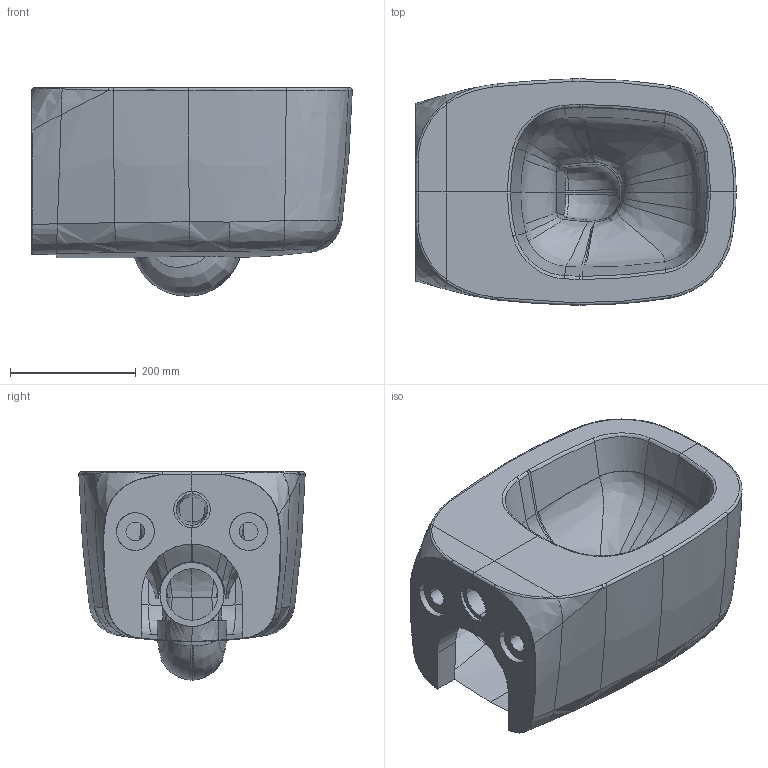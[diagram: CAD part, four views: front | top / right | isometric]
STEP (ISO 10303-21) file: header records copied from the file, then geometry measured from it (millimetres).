
FILE_DESCRIPTION(('CATIA V5 STEP Exchange'),'2;1');
FILE_NAME('C:\Users\167035\Downloads\7813.stp','2025-04-18T14:47:46+00:00',('none'),('none'),'CATIA Version 5 Release 19 SP 5 (IN-10)','CATIA V5 STEP AP214','none');
FILE_SCHEMA(('AUTOMOTIVE_DESIGN { 1 0 10303 214 1 1 1 1 }'));
Products named in the file (1): Vaso sospeso Galassia
Bounding box: 509.9 x 359.8 x 331.4 mm (x, y, z)
Surface area: 1082928.7 mm2 (no closed solid volume)
Topology: 0 solids, 20 shells, 241 faces, 719 edges, 487 vertices
Faces by surface type: bspline 180, cylinder 26, plane 25, torus 6, extrusion 2, revolution 2
Entity records: 45551 total; most frequent: CARTESIAN_POINT 40957, ORIENTED_EDGE 1112, EDGE_CURVE 713, B_SPLINE_CURVE_WITH_KNOTS 591, VERTEX_POINT 487, EDGE_LOOP 246, ADVANCED_FACE 241, FACE_OUTER_BOUND 241
